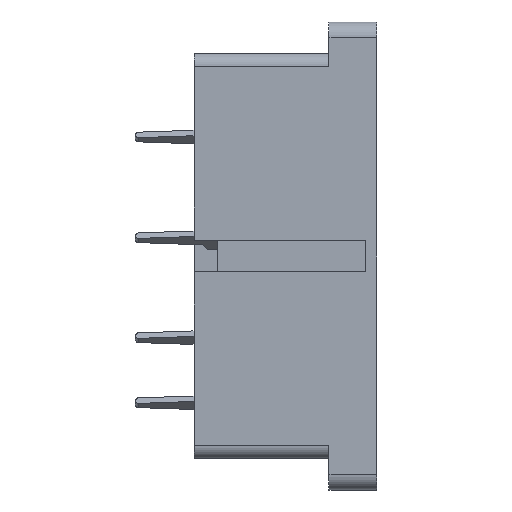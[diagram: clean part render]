
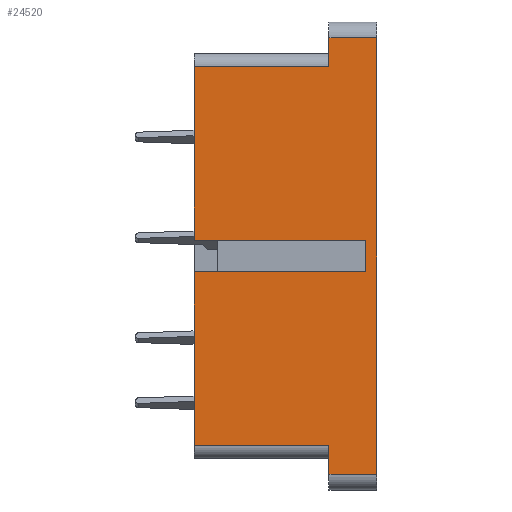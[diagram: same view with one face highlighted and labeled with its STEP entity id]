
A CAD part, left-side view. The second image highlights one B-rep face of the part: STEP entity #24520.
In plain terms, the highlighted planar face has unit normal (-1, 0, 0).
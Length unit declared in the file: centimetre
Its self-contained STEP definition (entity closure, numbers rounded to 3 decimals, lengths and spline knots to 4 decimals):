
#2153=FACE_OUTER_BOUND('',#3349,.T.);
#3349=EDGE_LOOP('',(#22470,#22471,#22472,#22473,#22474,#22475,#22476,#22477,
#22478,#22479,#22480,#22481));
#5956=LINE('',#38194,#9062);
#5959=LINE('',#38204,#9065);
#5986=LINE('',#38265,#9092);
#6372=LINE('',#39097,#9478);
#6373=LINE('',#39100,#9479);
#6383=LINE('',#39124,#9489);
#6386=LINE('',#39134,#9492);
#6394=LINE('',#39148,#9500);
#6424=LINE('',#39209,#9530);
#6430=LINE('',#39220,#9536);
#6431=LINE('',#39222,#9537);
#6446=LINE('',#39250,#9552);
#9062=VECTOR('',#31219,1.095);
#9065=VECTOR('',#31228,1.095);
#9092=VECTOR('',#31275,2.75);
#9478=VECTOR('',#32097,0.85);
#9479=VECTOR('',#32100,0.85);
#9489=VECTOR('',#32124,0.3);
#9492=VECTOR('',#32135,0.18);
#9500=VECTOR('',#32147,0.3);
#9530=VECTOR('',#32211,1.08);
#9536=VECTOR('',#32221,1.08);
#9537=VECTOR('',#32224,0.2);
#9552=VECTOR('',#32255,0.18);
#11567=VERTEX_POINT('',#38191);
#11568=VERTEX_POINT('',#38193);
#11571=VERTEX_POINT('',#38201);
#11572=VERTEX_POINT('',#38203);
#11595=VERTEX_POINT('',#38262);
#11596=VERTEX_POINT('',#38264);
#11824=VERTEX_POINT('',#39095);
#11825=VERTEX_POINT('',#39099);
#11832=VERTEX_POINT('',#39122);
#11835=VERTEX_POINT('',#39132);
#11853=VERTEX_POINT('',#39208);
#11856=VERTEX_POINT('',#39218);
#14843=EDGE_CURVE('',#11567,#11568,#5956,.T.);
#14848=EDGE_CURVE('',#11571,#11572,#5959,.T.);
#14880=EDGE_CURVE('',#11595,#11596,#5986,.T.);
#15313=EDGE_CURVE('',#11824,#11571,#6372,.T.);
#15314=EDGE_CURVE('',#11568,#11825,#6373,.T.);
#15327=EDGE_CURVE('',#11832,#11595,#6383,.T.);
#15332=EDGE_CURVE('',#11835,#11824,#6386,.T.);
#15340=EDGE_CURVE('',#11596,#11835,#6394,.T.);
#15370=EDGE_CURVE('',#11853,#11572,#6424,.T.);
#15376=EDGE_CURVE('',#11567,#11856,#6430,.T.);
#15377=EDGE_CURVE('',#11856,#11853,#6431,.T.);
#15392=EDGE_CURVE('',#11825,#11832,#6446,.T.);
#22470=ORIENTED_EDGE('',*,*,#15332,.F.);
#22471=ORIENTED_EDGE('',*,*,#15340,.F.);
#22472=ORIENTED_EDGE('',*,*,#14880,.F.);
#22473=ORIENTED_EDGE('',*,*,#15327,.F.);
#22474=ORIENTED_EDGE('',*,*,#15392,.F.);
#22475=ORIENTED_EDGE('',*,*,#15314,.F.);
#22476=ORIENTED_EDGE('',*,*,#14843,.F.);
#22477=ORIENTED_EDGE('',*,*,#15376,.T.);
#22478=ORIENTED_EDGE('',*,*,#15377,.T.);
#22479=ORIENTED_EDGE('',*,*,#15370,.T.);
#22480=ORIENTED_EDGE('',*,*,#14848,.F.);
#22481=ORIENTED_EDGE('',*,*,#15313,.F.);
#23392=PLANE('',#26084);
#24520=ADVANCED_FACE('',(#2153),#23392,.T.);
#26084=AXIS2_PLACEMENT_3D('',#39285,#32315,#32316);
#31219=DIRECTION('',(0.,0.,1.));
#31228=DIRECTION('',(0.,0.,1.));
#31275=DIRECTION('',(0.,0.,-1.));
#32097=DIRECTION('',(0.,1.,0.));
#32100=DIRECTION('',(0.,-1.,0.));
#32124=DIRECTION('',(0.,-1.,0.));
#32135=DIRECTION('',(0.,0.,1.));
#32147=DIRECTION('',(0.,1.,0.));
#32211=DIRECTION('',(0.,1.,0.));
#32221=DIRECTION('',(0.,-1.,0.));
#32224=DIRECTION('',(0.,0.,-1.));
#32255=DIRECTION('',(0.,0.,1.));
#32315=DIRECTION('center_axis',(-1.,0.,0.));
#32316=DIRECTION('ref_axis',(0.,0.,1.));
#38191=CARTESIAN_POINT('',(1.2497,0.5842,-0.475));
#38193=CARTESIAN_POINT('',(1.2497,0.5842,0.62));
#38194=CARTESIAN_POINT('',(1.2497,0.5842,0.9));
#38201=CARTESIAN_POINT('',(1.2497,0.5842,-1.77));
#38203=CARTESIAN_POINT('',(1.2497,0.5842,-0.675));
#38204=CARTESIAN_POINT('',(1.2497,0.5842,0.9));
#38262=CARTESIAN_POINT('',(1.2497,-0.5658,0.8));
#38264=CARTESIAN_POINT('',(1.2497,-0.5658,-1.95));
#38265=CARTESIAN_POINT('',(1.2497,-0.5658,0.9));
#39095=CARTESIAN_POINT('',(1.2497,-0.2658,-1.77));
#39097=CARTESIAN_POINT('',(1.2497,0.0092,-1.77));
#39099=CARTESIAN_POINT('',(1.2497,-0.2658,0.62));
#39100=CARTESIAN_POINT('',(1.2497,0.0092,0.62));
#39122=CARTESIAN_POINT('',(1.2497,-0.2658,0.8));
#39124=CARTESIAN_POINT('',(1.2497,-0.5658,0.8));
#39132=CARTESIAN_POINT('',(1.2497,-0.2658,-1.95));
#39134=CARTESIAN_POINT('',(1.2497,-0.2658,-2.));
#39148=CARTESIAN_POINT('',(1.2497,-0.5658,-1.95));
#39208=CARTESIAN_POINT('',(1.2497,-0.4958,-0.675));
#39209=CARTESIAN_POINT('',(1.2497,0.0092,-0.675));
#39218=CARTESIAN_POINT('',(1.2497,-0.4958,-0.475));
#39220=CARTESIAN_POINT('',(1.2497,0.0092,-0.475));
#39222=CARTESIAN_POINT('',(1.2497,-0.4958,-1.3125));
#39250=CARTESIAN_POINT('',(1.2497,-0.2658,-0.625));
#39285=CARTESIAN_POINT('Origin',(1.2497,-0.5658,-2.05));
